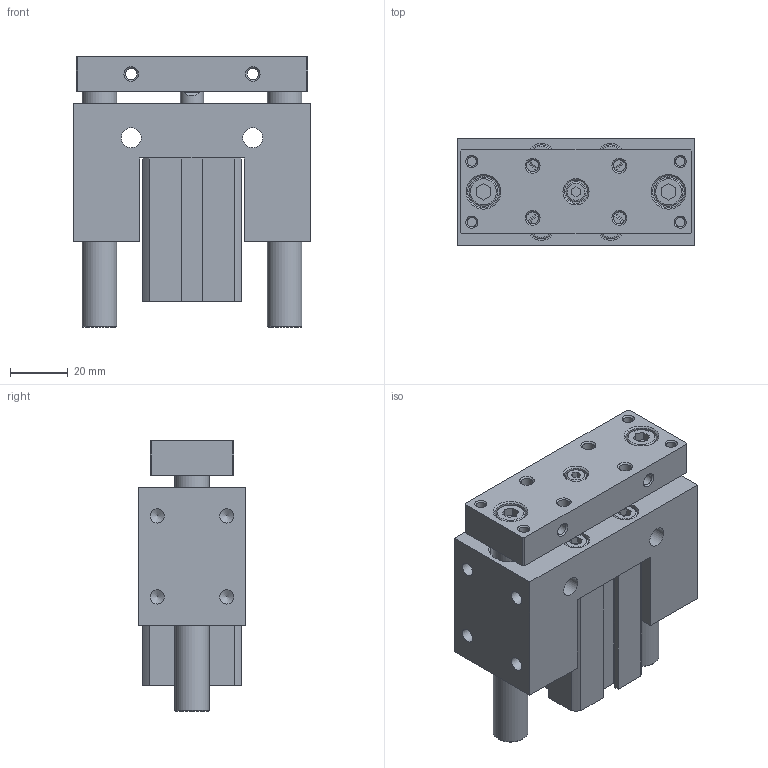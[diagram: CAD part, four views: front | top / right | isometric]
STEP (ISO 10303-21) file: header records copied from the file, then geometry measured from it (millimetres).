
FILE_DESCRIPTION((''),'2;1');
FILE_NAME('I:\3D電子目錄\氣缸\JCB\JCB\JCB20\JCB20x30.stp','2007-08-21T18:17:36',('Administrator'),(''),'Autodesk Inventor 11','Autodesk Inventor 11','');
FILE_SCHEMA(('AUTOMOTIVE_DESIGN { 1 0 10303 214 1 1 1 1 }'));
Length unit declared in the file: millimetre
Products named in the file (1): JCB20
Bounding box: 82 x 37 x 93.5 mm (x, y, z)
Volume: 176017.2 mm3; surface area: 57647.6 mm2
Topology: 5 solids, 5 shells, 293 faces, 643 edges, 415 vertices
Faces by surface type: plane 150, bspline 53, cylinder 45, cone 37, torus 8
Full cylindrical faces by diameter (mm): 1.5 x2, 4.3 x4, 4.917 x4, 7 x9, 8 x1, 8.5 x4, 9 x1, 10 x2, 12 x2, 13 x2, 14 x2, 22 x4, 23.2 x2
Entity records: 7875 total; most frequent: CARTESIAN_POINT 1985, DIRECTION 1184, ORIENTED_EDGE 992, EDGE_LOOP 504, EDGE_CURVE 496, AXIS2_PLACEMENT_3D 447, VERTEX_POINT 394, FACE_OUTER_BOUND 293
